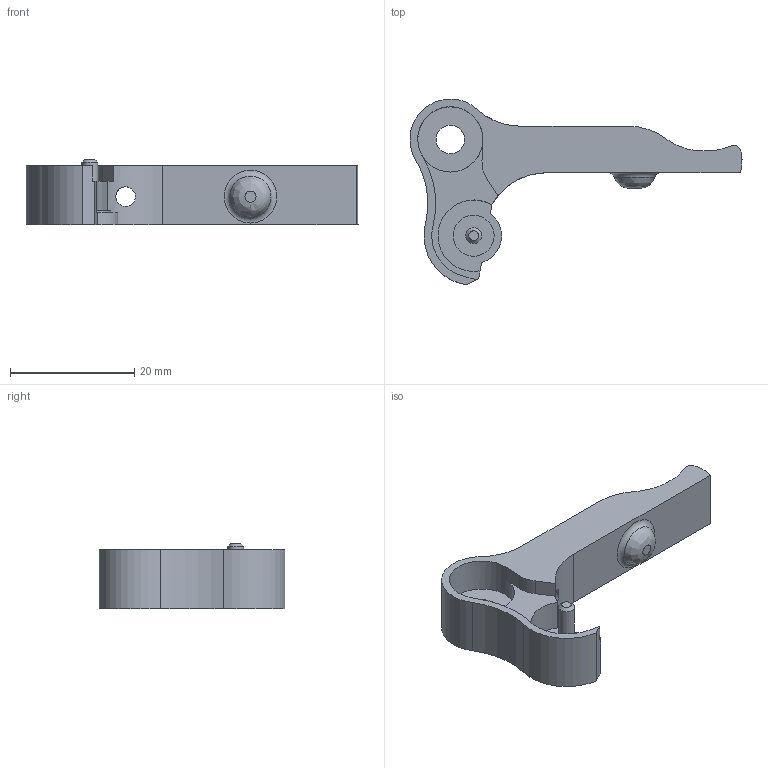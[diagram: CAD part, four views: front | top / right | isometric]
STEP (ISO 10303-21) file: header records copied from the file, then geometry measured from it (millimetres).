
FILE_DESCRIPTION( ( '' ), ' ' );
FILE_NAME( '/vol/tmp/translate-1747515507853083069/57c4d777c1f2f9107b9270b0.step', '2016-08-30T00:46:47', ( '' ), ( '' ), ' ', ' ', ' ' );
FILE_SCHEMA( ( 'AUTOMOTIVE_DESIGN { 1 0 10303 214 1 1 1 1 }' ) );
Length unit declared in the file: metre
Products named in the file (1): SCH_Lever rev2
Bounding box: 53.45 x 29.9 x 10.5 mm (x, y, z)
Volume: 4176.9 mm3; surface area: 3021.2 mm2
Topology: 1 solids, 1 shells, 41 faces, 112 edges, 75 vertices
Faces by surface type: cylinder 18, plane 17, bspline 3, cone 2, torus 1
Full cylindrical faces by diameter (mm): 2.55 x1, 4.6 x1, 6.6 x1, 10.5 x1
Entity records: 1730 total; most frequent: CARTESIAN_POINT 371, DIRECTION 213, ORIENTED_EDGE 202, EDGE_CURVE 101, AXIS2_PLACEMENT_3D 82, VERTEX_POINT 72, EDGE_LOOP 55, LINE 49
